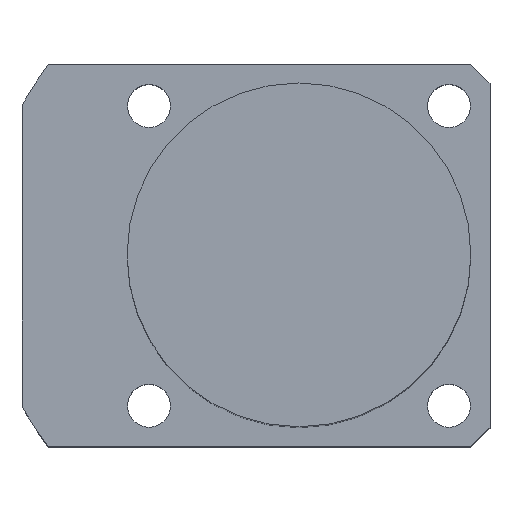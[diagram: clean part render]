
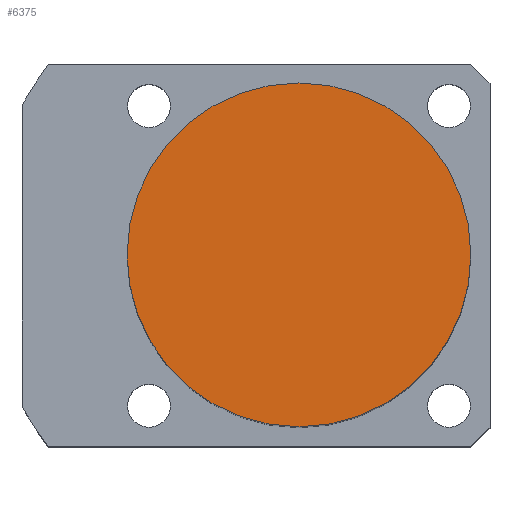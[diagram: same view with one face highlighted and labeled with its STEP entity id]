
A CAD part, top view. The second image highlights one B-rep face of the part: STEP entity #6375.
In plain terms, the highlighted planar face has unit normal (0, 0, 1).
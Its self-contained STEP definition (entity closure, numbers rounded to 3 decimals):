
#6317=CARTESIAN_POINT('',(-0.0,18.0,68.5));
#6318=VERTEX_POINT('',#6317);
#6325=CARTESIAN_POINT('',(18.0,0.0,68.5));
#6326=VERTEX_POINT('',#6325);
#6327=CARTESIAN_POINT('',(0.0,0.0,68.5));
#6328=DIRECTION('',(0.0,0.0,1.0));
#6329=DIRECTION('',(1.0,0.0,0.0));
#6330=AXIS2_PLACEMENT_3D('',#6327,#6328,#6329);
#6331=CIRCLE('',#6330,18.0);
#6332=EDGE_CURVE('no 3783',#6326,#6318,#6331,.T.);
#6334=CARTESIAN_POINT('',(-0.0,-18.0,68.5));
#6335=VERTEX_POINT('',#6334);
#6336=CARTESIAN_POINT('',(0.0,0.0,68.5));
#6337=DIRECTION('',(0.0,0.0,1.0));
#6338=DIRECTION('',(1.0,0.0,0.0));
#6339=AXIS2_PLACEMENT_3D('',#6336,#6337,#6338);
#6340=CIRCLE('',#6339,18.0);
#6341=EDGE_CURVE('no 3789',#6335,#6326,#6340,.T.);
#6359=ORIENTED_EDGE('',*,*,#6332,.T.);
#6360=CARTESIAN_POINT('',(0.0,0.0,68.5));
#6361=DIRECTION('',(0.0,0.0,1.0));
#6362=DIRECTION('',(1.0,0.0,0.0));
#6363=AXIS2_PLACEMENT_3D('',#6360,#6361,#6362);
#6364=CIRCLE('',#6363,18.0);
#6365=EDGE_CURVE('no 3806',#6318,#6335,#6364,.T.);
#6366=ORIENTED_EDGE('',*,*,#6365,.T.);
#6367=ORIENTED_EDGE('',*,*,#6341,.T.);
#6368=EDGE_LOOP('',(#6359,#6366,#6367));
#6369=FACE_OUTER_BOUND('',#6368,.T.);
#6370=CARTESIAN_POINT('',(0.0,0.0,68.5));
#6371=DIRECTION('',(0.0,0.0,1.0));
#6372=DIRECTION('',(1.0,0.0,0.0));
#6373=AXIS2_PLACEMENT_3D('',#6370,#6371,#6372);
#6374=PLANE('',#6373);
#6375=ADVANCED_FACE('no 3799',(#6369),#6374,.T.);
